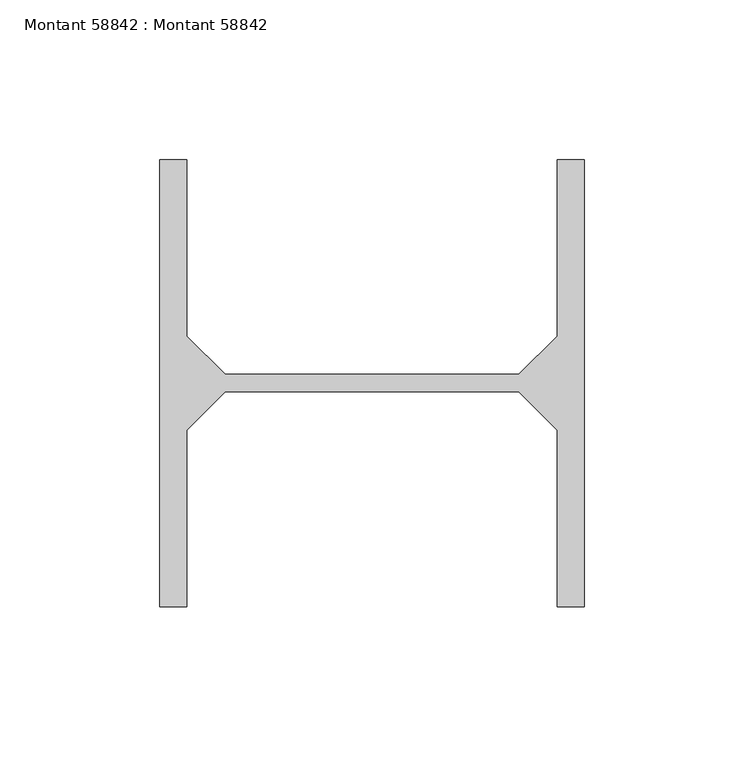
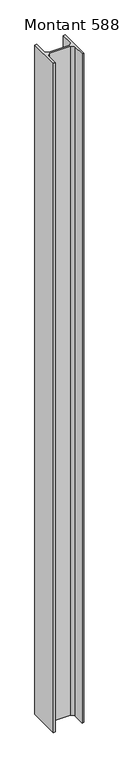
"""IFC4 building model written with IfcOpenShell, lengths in millimetres: beam geometry, Montant 58842 : Montant 58842."""

import ifcopenshell
import ifcopenshell.guid

model = None  # the IFC model being written
_history = None  # IfcOwnerHistory: only IFC2X3 demands one
_inside = {}  # id of a spatial element -> (the spatial element, [elements in it])
_under = {}  # id of a project, library or spatial element -> (it, [spatial elements below it])
_declared = {}  # id of a project -> (the project, [libraries it declares])
_typed = {}  # id of a type object -> (the type object, [elements of that type])
_made_of = {}  # id of a material, layer set ... -> (it, [elements and type objects made of it])


def new_model(schema):
    """Start an empty IFC model of exactly this schema.

    Asked for "IFC4X3", IfcOpenShell would pick the latest addendum, in which some entities
    have other attributes; the version numbers below select the first issue.
    IFC2X3 requires an IfcOwnerHistory on every rooted entity: one is made here for all.
    """
    global model, _history
    if schema == "IFC4X3":
        model = ifcopenshell.file(schema_version=(4, 3, 0, 0))
    else:
        model = ifcopenshell.file(schema=schema)
    _inside.clear()
    _under.clear()
    _declared.clear()
    _typed.clear()
    _made_of.clear()
    _history = None
    if model.schema == "IFC2X3":
        org = make("IfcOrganization", Name="unknown")
        user = make(
            "IfcPersonAndOrganization",
            ThePerson=make("IfcPerson", FamilyName="unknown"),
            TheOrganization=org,
        )
        app = make(
            "IfcApplication",
            ApplicationDeveloper=org,
            Version="unknown",
            ApplicationFullName="unknown",
            ApplicationIdentifier="unknown",
        )
        _history = make(
            "IfcOwnerHistory",
            OwningUser=user,
            OwningApplication=app,
            ChangeAction="ADDED",
            CreationDate=0,
        )
    return model


def make(cls, **values):
    """One entity of the class cls with the attributes given. An attribute that is None is left unset."""
    return model.create_entity(
        cls, **{name: value for name, value in values.items() if value is not None}
    )


def rooted(cls, **values):
    """An entity with a GlobalId (a new one), such as an element, a storey or a relation."""
    return make(cls, GlobalId=ifcopenshell.guid.new(), OwnerHistory=_history, **values)


def si_unit(unit_type, name, prefix=None):
    """IfcSIUnit, for example si_unit("LENGTHUNIT", "METRE", prefix="MILLI")."""
    return make("IfcSIUnit", UnitType=unit_type, Prefix=prefix, Name=name)


def assignment(units):
    """IfcUnitAssignment: the units of a project."""
    return None if units is None else make("IfcUnitAssignment", Units=units)


def point(xyz):
    """IfcCartesianPoint."""
    return None if xyz is None else make("IfcCartesianPoint", Coordinates=xyz)


def direction(xyz):
    """IfcDirection."""
    return None if xyz is None else make("IfcDirection", DirectionRatios=xyz)


def frame(location, z_axis=None, x_axis=None):
    """IfcAxis2Placement3D, a coordinate frame: its origin and axes. An axis left out is left unset."""
    return make(
        "IfcAxis2Placement3D",
        Location=point(location),
        Axis=direction(z_axis),
        RefDirection=direction(x_axis),
    )


def origin():
    """The frame at (0, 0, 0) with its axes left unset."""
    return frame((0.0, 0.0, 0.0))


def place(relative_to, where):
    """IfcLocalPlacement: puts the frame where relative to a parent placement (None: the world)."""
    return make(
        "IfcLocalPlacement", PlacementRelTo=relative_to, RelativePlacement=where
    )


def context(
    kind, dimensions, precision=None, world=None, true_north=None, identifier=None
):
    """IfcGeometricRepresentationContext, for example the 3D "Model" context."""
    return make(
        "IfcGeometricRepresentationContext",
        ContextIdentifier=identifier,
        ContextType=kind,
        CoordinateSpaceDimension=dimensions,
        Precision=precision,
        WorldCoordinateSystem=world,
        TrueNorth=true_north,
    )


def project(units=None, contexts=None):
    """IfcProject with its units and contexts."""
    return rooted(
        "IfcProject",
        Name="project",
        RepresentationContexts=contexts,
        UnitsInContext=assignment(units),
    )


def spatial(cls, under=None, at=None, **own):
    """A site, building, storey or space (cls), placed at a placement, below another one or the project."""
    s = rooted(cls, ObjectPlacement=at, **own)
    if under is not None:
        _under.setdefault(under.id(), (under, []))[1].append(s)
    return s


def polyline(points):
    """IfcPolyline through the points."""
    return make("IfcPolyline", Points=[point(p) for p in points])


def outline(outer, holes=None, kind="AREA"):
    """IfcArbitraryClosedProfileDef: a profile drawn as a closed curve; with holes, ...WithVoids."""
    if holes is None:
        return make("IfcArbitraryClosedProfileDef", ProfileType=kind, OuterCurve=outer)
    return make(
        "IfcArbitraryProfileDefWithVoids",
        ProfileType=kind,
        OuterCurve=outer,
        InnerCurves=holes,
    )


def extrude(swept, where, along, depth):
    """IfcExtrudedAreaSolid: the profile swept, set in the frame where, extruded along a direction by depth."""
    return make(
        "IfcExtrudedAreaSolid",
        SweptArea=swept,
        Position=where,
        ExtrudedDirection=direction(along),
        Depth=depth,
    )


def shape(context_of_items, identifier, shape_type, items):
    """IfcShapeRepresentation: the items that make up one representation, for example the "Body"."""
    return make(
        "IfcShapeRepresentation",
        ContextOfItems=context_of_items,
        RepresentationIdentifier=identifier,
        RepresentationType=shape_type,
        Items=items,
    )


def source(mapping_origin, context_of_items, identifier, shape_type, items):
    """IfcRepresentationMap: a shape defined once, which mapped items show again and again."""
    return make(
        "IfcRepresentationMap",
        MappingOrigin=mapping_origin,
        MappedRepresentation=shape(context_of_items, identifier, shape_type, items),
    )


def transform(
    local_origin,
    x_axis=None,
    y_axis=None,
    z_axis=None,
    scale=None,
    scale2=None,
    scale3=None,
    uniform=True,
):
    """IfcCartesianTransformationOperator3D, or its non-uniform kind. x_axis, y_axis, z_axis: its Axis1, 2, 3."""
    if uniform:
        return make(
            "IfcCartesianTransformationOperator3D",
            Axis1=direction(x_axis),
            Axis2=direction(y_axis),
            LocalOrigin=point(local_origin),
            Scale=scale,
            Axis3=direction(z_axis),
        )
    return make(
        "IfcCartesianTransformationOperator3DnonUniform",
        Axis1=direction(x_axis),
        Axis2=direction(y_axis),
        LocalOrigin=point(local_origin),
        Scale=scale,
        Axis3=direction(z_axis),
        Scale2=scale2,
        Scale3=scale3,
    )


def mapped(mapping_source, mapping_target):
    """IfcMappedItem: shows the shape of a source again, moved by a transform."""
    return make(
        "IfcMappedItem", MappingSource=mapping_source, MappingTarget=mapping_target
    )


def made_of(thing, what):
    """Note that an element or type object is made of a material, layer set ...; save() writes the relation."""
    if what is not None:
        _made_of.setdefault(what.id(), (what, []))[1].append(thing)
    return thing


def element(
    cls,
    number,
    at=None,
    inside=None,
    cuts=None,
    type_object=None,
    material=None,
    context=None,
    identifier="Body",
    shape_type=None,
    held_by="IfcProductDefinitionShape",
    body=None,
    shapes=None,
    **own,
):
    """One element of the class cls, such as IfcWall. Its Tag is "e" and its number.

    at: its placement. inside: the storey or other place that contains it. cuts: it is an
    opening in that element (IfcRelVoidsElement). A single representation is given by context,
    identifier, shape_type and body (its items); several are given by shapes. held_by: the class
    of the entity that holds the representations. save() writes the other relations.
    """
    e = rooted(cls, Tag="e%d" % number, ObjectPlacement=at, **own)
    if body is not None:
        shapes = [shape(context, identifier, shape_type, body)]
    if shapes is not None:
        e.Representation = make(held_by, Representations=shapes)
    if inside is not None:
        _inside.setdefault(inside.id(), (inside, []))[1].append(e)
    if cuts is not None:
        rooted(
            "IfcRelVoidsElement", RelatingBuildingElement=cuts, RelatedOpeningElement=e
        )
    if type_object is not None:
        _typed.setdefault(type_object.id(), (type_object, []))[1].append(e)
    return made_of(e, material)


def aggregate(whole, parts):
    """IfcRelAggregates: a whole, such as a stair, and the parts it consists of."""
    return rooted("IfcRelAggregates", RelatingObject=whole, RelatedObjects=parts)


def save(model, path):
    """Write the relations noted so far, then the file.

    IfcRelAggregates (storeys below a building ...), IfcRelContainedInSpatialStructure (elements
    in a storey), IfcRelDefinesByType, IfcRelAssociatesMaterial and IfcRelDeclares: one each for
    every whole, place, type object, material and project.
    """
    for whole, parts in _under.values():
        aggregate(whole, parts)
    for where, things in _inside.values():
        rooted(
            "IfcRelContainedInSpatialStructure",
            RelatedElements=things,
            RelatingStructure=where,
        )
    for kind, things in _typed.values():
        rooted("IfcRelDefinesByType", RelatedObjects=things, RelatingType=kind)
    for what, things in _made_of.values():
        rooted("IfcRelAssociatesMaterial", RelatedObjects=things, RelatingMaterial=what)
    for by, libraries in _declared.values():
        rooted("IfcRelDeclares", RelatingContext=by, RelatedDefinitions=libraries)
    model.write(path)


def montant_58842_montant_58842_98824703(model_context):
    return source(origin(), model_context, "Body", "SweptSolid", [
        extrude(outline(polyline([(-52.0000001, -21699.5), (-52.0000001, -21644.25), (-64.0000001, -21632.25), (-156.0000001, -21632.25), (-168.0000001, -21644.25), (-168.0000001, -21699.5), (-176.5000001, -21699.5), (-176.5000001, -21559.5), (-168.0000001, -21559.5), (-168.0000001, -21614.75), (-156.0000001, -21626.75), (-64.0000001, -21626.75), (-52.0000001, -21614.75), (-52.0000001, -21559.5), (-43.5000001, -21559.5), (-43.5000001, -21699.5), (-52.0000001, -21699.5)])), frame((0.0, 0.0, 5333.0), z_axis=(0.0, 0.0, 1.0), x_axis=(1.0, 0.0, 0.0)), (0.0, 0.0, 1.0), 3084.0),
    ])


if __name__ == "__main__":
    model = new_model("IFC4")
    model_context = context("Model", 3, world=origin())
    ifc_project = project(units=[si_unit("LENGTHUNIT", "METRE", prefix="MILLI")], contexts=[model_context])
    site = spatial("IfcSite", under=ifc_project)
    building = spatial("IfcBuilding", under=site)
    placement = place(None, origin())
    montant_58842_montant_58842_shape = montant_58842_montant_58842_98824703(model_context)
    element("IfcBeam", 1, ObjectType="Montant 58842 : Montant 58842", at=placement, inside=building, context=model_context, shape_type="MappedRepresentation", body=[
        mapped(montant_58842_montant_58842_shape, transform((0.0, 0.0, 0.0), x_axis=(1.0, 0.0, 0.0), y_axis=(0.0, 1.0, 0.0), z_axis=(0.0, 0.0, 1.0))),
    ])
    save(model, "model.ifc")
